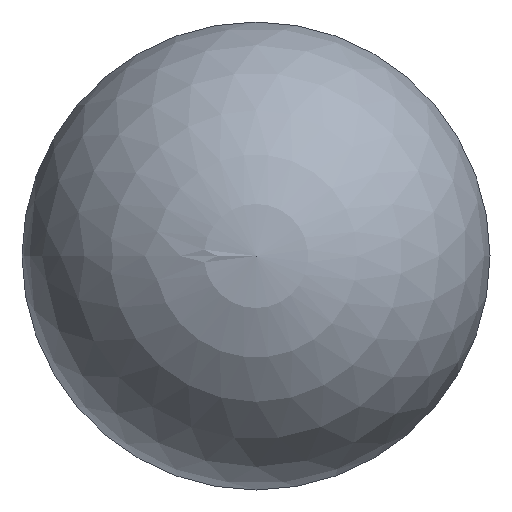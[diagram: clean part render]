
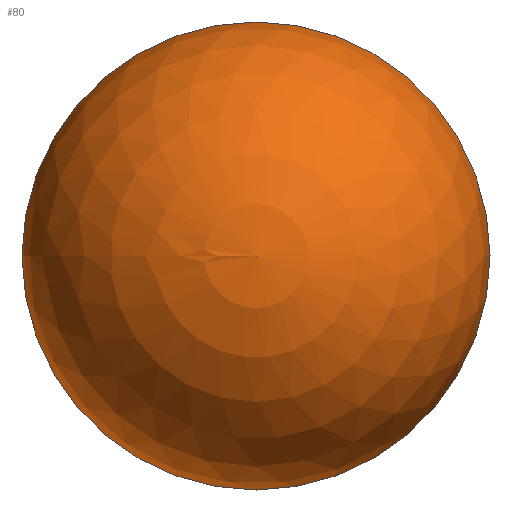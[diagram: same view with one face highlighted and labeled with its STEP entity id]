
A CAD part, left-side view. The second image highlights one B-rep face of the part: STEP entity #80.
In plain terms, the highlighted spherical face has radius 1.3 mm.
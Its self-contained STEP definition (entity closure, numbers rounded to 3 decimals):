
#80 = ADVANCED_FACE( '', ( #98, #99 ), #100, .T. );
#98 = FACE_BOUND( '', #118, .T. );
#99 = FACE_OUTER_BOUND( '', #119, .T. );
#100 = SPHERICAL_SURFACE( '', #120, 1.3 );
#118 = VERTEX_LOOP( '', #148 );
#119 = EDGE_LOOP( '', ( #149 ) );
#120 = AXIS2_PLACEMENT_3D( '', #150, #151, #152 );
#148 = VERTEX_POINT( '', #163 );
#149 = ORIENTED_EDGE( '', *, *, #162, .F. );
#150 = CARTESIAN_POINT( '', ( 1.3, 0., 0. ) );
#151 = DIRECTION( '', ( 1., 0., 0. ) );
#152 = DIRECTION( '', ( 0., 1., 0. ) );
#162 = EDGE_CURVE( '', #174, #174, #175, .T. );
#163 = CARTESIAN_POINT( '', ( 0., 0., 0. ) );
#174 = VERTEX_POINT( '', #186 );
#175 = CIRCLE( '', #187, 1.3 );
#186 = CARTESIAN_POINT( '', ( 1.3, 1.3, 0. ) );
#187 = AXIS2_PLACEMENT_3D( '', #203, #204, #205 );
#203 = CARTESIAN_POINT( '', ( 1.3, 0., 0. ) );
#204 = DIRECTION( '', ( 1., 0., 0. ) );
#205 = DIRECTION( '', ( 0., 1., 0. ) );
